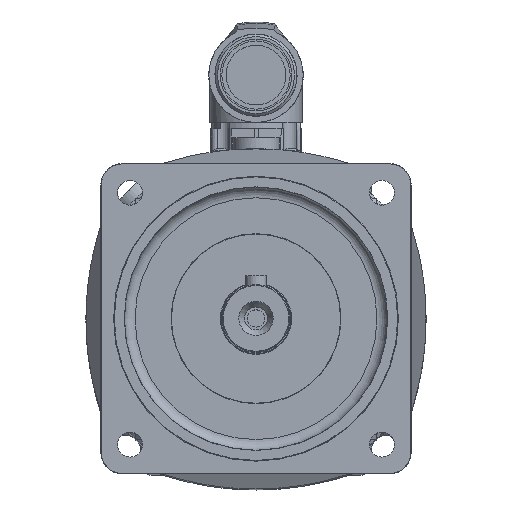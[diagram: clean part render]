
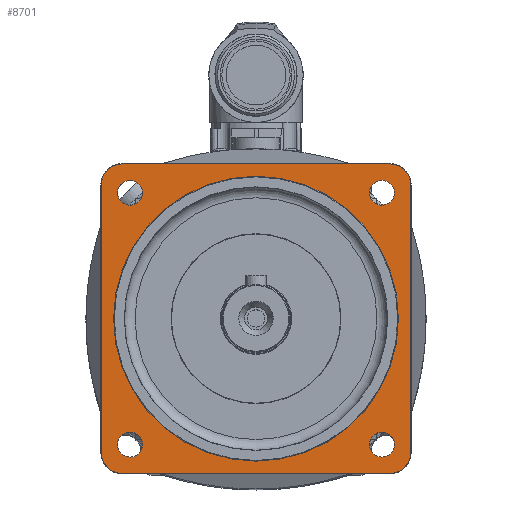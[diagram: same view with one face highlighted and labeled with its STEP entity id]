
A CAD part, top view. The second image highlights one B-rep face of the part: STEP entity #8701.
In plain terms, the highlighted planar face has unit normal (0, 0, 1).
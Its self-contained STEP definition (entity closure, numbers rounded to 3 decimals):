
#479=FACE_BOUND('',#1044,.T.);
#480=FACE_BOUND('',#1045,.T.);
#481=FACE_BOUND('',#1046,.T.);
#482=FACE_BOUND('',#1047,.T.);
#483=FACE_BOUND('',#1048,.T.);
#546=FACE_OUTER_BOUND('',#1043,.T.);
#1043=EDGE_LOOP('',(#5518,#5519,#5520,#5521,#5522,#5523,#5524,#5525));
#1044=EDGE_LOOP('',(#5526));
#1045=EDGE_LOOP('',(#5527));
#1046=EDGE_LOOP('',(#5528));
#1047=EDGE_LOOP('',(#5529));
#1048=EDGE_LOOP('',(#5530));
#1581=LINE('',#12674,#2274);
#1584=LINE('',#12682,#2277);
#1587=LINE('',#12690,#2280);
#1590=LINE('',#12697,#2283);
#2274=VECTOR('',#10232,10.);
#2277=VECTOR('',#10241,10.);
#2280=VECTOR('',#10250,10.);
#2283=VECTOR('',#10259,10.);
#2957=CIRCLE('',#9283,6.);
#2958=CIRCLE('',#9286,6.);
#2959=CIRCLE('',#9289,6.);
#2960=CIRCLE('',#9292,6.);
#2961=CIRCLE('',#9295,3.5);
#2963=CIRCLE('',#9298,3.5);
#2965=CIRCLE('',#9301,3.5);
#2966=CIRCLE('',#9303,3.5);
#2968=CIRCLE('',#9306,40.);
#3357=VERTEX_POINT('',#12667);
#3358=VERTEX_POINT('',#12668);
#3359=VERTEX_POINT('',#12673);
#3360=VERTEX_POINT('',#12677);
#3361=VERTEX_POINT('',#12681);
#3362=VERTEX_POINT('',#12685);
#3363=VERTEX_POINT('',#12689);
#3364=VERTEX_POINT('',#12693);
#3365=VERTEX_POINT('',#12699);
#3367=VERTEX_POINT('',#12705);
#3369=VERTEX_POINT('',#12711);
#3370=VERTEX_POINT('',#12715);
#3372=VERTEX_POINT('',#12721);
#4184=EDGE_CURVE('',#3357,#3358,#2957,.T.);
#4187=EDGE_CURVE('',#3359,#3357,#1581,.T.);
#4189=EDGE_CURVE('',#3360,#3359,#2958,.T.);
#4191=EDGE_CURVE('',#3361,#3360,#1584,.T.);
#4193=EDGE_CURVE('',#3362,#3361,#2959,.T.);
#4195=EDGE_CURVE('',#3363,#3362,#1587,.T.);
#4197=EDGE_CURVE('',#3364,#3363,#2960,.T.);
#4199=EDGE_CURVE('',#3358,#3364,#1590,.T.);
#4200=EDGE_CURVE('',#3365,#3365,#2961,.T.);
#4203=EDGE_CURVE('',#3367,#3367,#2963,.T.);
#4206=EDGE_CURVE('',#3369,#3369,#2965,.T.);
#4208=EDGE_CURVE('',#3370,#3370,#2966,.T.);
#4211=EDGE_CURVE('',#3372,#3372,#2968,.T.);
#5518=ORIENTED_EDGE('',*,*,#4197,.F.);
#5519=ORIENTED_EDGE('',*,*,#4199,.F.);
#5520=ORIENTED_EDGE('',*,*,#4184,.F.);
#5521=ORIENTED_EDGE('',*,*,#4187,.F.);
#5522=ORIENTED_EDGE('',*,*,#4189,.F.);
#5523=ORIENTED_EDGE('',*,*,#4191,.F.);
#5524=ORIENTED_EDGE('',*,*,#4193,.F.);
#5525=ORIENTED_EDGE('',*,*,#4195,.F.);
#5526=ORIENTED_EDGE('',*,*,#4211,.T.);
#5527=ORIENTED_EDGE('',*,*,#4206,.F.);
#5528=ORIENTED_EDGE('',*,*,#4203,.F.);
#5529=ORIENTED_EDGE('',*,*,#4200,.F.);
#5530=ORIENTED_EDGE('',*,*,#4208,.F.);
#7940=PLANE('',#9305);
#8701=ADVANCED_FACE('',(#546,#479,#480,#481,#482,#483),#7940,.T.);
#9283=AXIS2_PLACEMENT_3D('',#12669,#10226,#10227);
#9286=AXIS2_PLACEMENT_3D('',#12678,#10236,#10237);
#9289=AXIS2_PLACEMENT_3D('',#12686,#10245,#10246);
#9292=AXIS2_PLACEMENT_3D('',#12694,#10254,#10255);
#9295=AXIS2_PLACEMENT_3D('',#12700,#10262,#10263);
#9298=AXIS2_PLACEMENT_3D('',#12706,#10269,#10270);
#9301=AXIS2_PLACEMENT_3D('',#12712,#10276,#10277);
#9303=AXIS2_PLACEMENT_3D('',#12716,#10281,#10282);
#9305=AXIS2_PLACEMENT_3D('',#12720,#10286,#10287);
#9306=AXIS2_PLACEMENT_3D('',#12722,#10288,#10289);
#10226=DIRECTION('center_axis',(0.,0.,-1.));
#10227=DIRECTION('ref_axis',(0.,-1.,0.));
#10232=DIRECTION('',(0.,1.,0.));
#10236=DIRECTION('center_axis',(0.,0.,-1.));
#10237=DIRECTION('ref_axis',(1.,0.,0.));
#10241=DIRECTION('',(-1.,0.,0.));
#10245=DIRECTION('center_axis',(0.,0.,-1.));
#10246=DIRECTION('ref_axis',(0.,1.,0.));
#10250=DIRECTION('',(0.,-1.,0.));
#10254=DIRECTION('center_axis',(0.,0.,-1.));
#10255=DIRECTION('ref_axis',(-1.,0.,0.));
#10259=DIRECTION('',(1.,0.,0.));
#10262=DIRECTION('center_axis',(0.,0.,1.));
#10263=DIRECTION('ref_axis',(1.,0.,0.));
#10269=DIRECTION('center_axis',(0.,0.,1.));
#10270=DIRECTION('ref_axis',(0.,1.,0.));
#10276=DIRECTION('center_axis',(0.,0.,1.));
#10277=DIRECTION('ref_axis',(-1.,0.,0.));
#10281=DIRECTION('center_axis',(0.,0.,1.));
#10282=DIRECTION('ref_axis',(0.,-1.,0.));
#10286=DIRECTION('center_axis',(0.,0.,1.));
#10287=DIRECTION('ref_axis',(1.,0.,0.));
#10288=DIRECTION('center_axis',(0.,0.,-1.));
#10289=DIRECTION('ref_axis',(-1.,0.,0.));
#12667=CARTESIAN_POINT('',(-43.5,37.5,0.));
#12668=CARTESIAN_POINT('',(-37.5,43.5,0.));
#12669=CARTESIAN_POINT('Origin',(-37.5,37.5,0.));
#12673=CARTESIAN_POINT('',(-43.5,-37.5,0.));
#12674=CARTESIAN_POINT('',(-43.5,-37.5,0.));
#12677=CARTESIAN_POINT('',(-37.5,-43.5,0.));
#12678=CARTESIAN_POINT('Origin',(-37.5,-37.5,0.));
#12681=CARTESIAN_POINT('',(37.5,-43.5,0.));
#12682=CARTESIAN_POINT('',(37.5,-43.5,0.));
#12685=CARTESIAN_POINT('',(43.5,-37.5,0.));
#12686=CARTESIAN_POINT('Origin',(37.5,-37.5,0.));
#12689=CARTESIAN_POINT('',(43.5,37.5,0.));
#12690=CARTESIAN_POINT('',(43.5,37.5,0.));
#12693=CARTESIAN_POINT('',(37.5,43.5,0.));
#12694=CARTESIAN_POINT('Origin',(37.5,37.5,0.));
#12697=CARTESIAN_POINT('',(-37.5,43.5,0.));
#12699=CARTESIAN_POINT('',(-38.855,-35.355,0.));
#12700=CARTESIAN_POINT('Origin',(-35.355,-35.355,0.));
#12705=CARTESIAN_POINT('',(35.355,-38.855,0.));
#12706=CARTESIAN_POINT('Origin',(35.355,-35.355,0.));
#12711=CARTESIAN_POINT('',(38.855,35.355,0.));
#12712=CARTESIAN_POINT('Origin',(35.355,35.355,0.));
#12715=CARTESIAN_POINT('',(-35.355,38.855,0.));
#12716=CARTESIAN_POINT('Origin',(-35.355,35.355,0.));
#12720=CARTESIAN_POINT('Origin',(0.,0.,
0.));
#12721=CARTESIAN_POINT('',(40.,0.,0.));
#12722=CARTESIAN_POINT('Origin',(0.,0.,0.));
